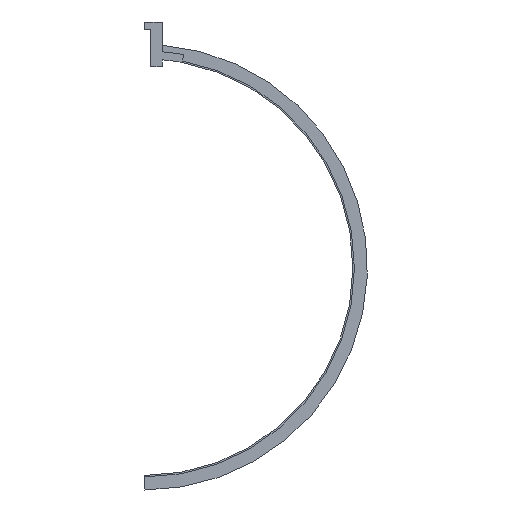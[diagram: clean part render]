
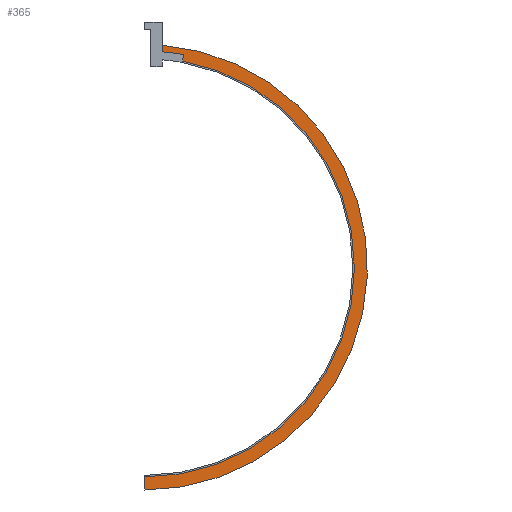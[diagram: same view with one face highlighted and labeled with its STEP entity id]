
A CAD part, top view. The second image highlights one B-rep face of the part: STEP entity #365.
In plain terms, the highlighted planar face has unit normal (0, 0, 1).
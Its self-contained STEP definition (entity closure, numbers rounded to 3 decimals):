
#365 = ADVANCED_FACE('',(#366),#381,.T.);
#366 = FACE_BOUND('',#367,.T.);
#367 = EDGE_LOOP('',(#368,#392,#408,#425,#441,#458));
#368 = ORIENTED_EDGE('',*,*,#369,.F.);
#369 = EDGE_CURVE('',#370,#372,#374,.T.);
#370 = VERTEX_POINT('',#371);
#371 = CARTESIAN_POINT('',(0.,-418.,0.));
#372 = VERTEX_POINT('',#373);
#373 = CARTESIAN_POINT('',(75.457,411.133,0.));
#374 = SURFACE_CURVE('',#375,(#380),.PCURVE_S1.);
#375 = CIRCLE('',#376,418.);
#376 = AXIS2_PLACEMENT_3D('',#377,#378,#379);
#377 = CARTESIAN_POINT('',(0.,0.,0.));
#378 = DIRECTION('',(0.,0.,1.));
#379 = DIRECTION('',(0.,-1.,0.));
#380 = PCURVE('',#381,#386);
#381 = PLANE('',#382);
#382 = AXIS2_PLACEMENT_3D('',#383,#384,#385);
#383 = CARTESIAN_POINT('',(0.,0.,0.));
#384 = DIRECTION('',(0.,0.,1.));
#385 = DIRECTION('',(1.,0.,-0.));
#386 = DEFINITIONAL_REPRESENTATION('',(#387),#391);
#387 = CIRCLE('',#388,418.);
#388 = AXIS2_PLACEMENT_2D('',#389,#390);
#389 = CARTESIAN_POINT('',(0.,0.));
#390 = DIRECTION('',(0.,-1.));
#391 = ( GEOMETRIC_REPRESENTATION_CONTEXT(2) 
PARAMETRIC_REPRESENTATION_CONTEXT() REPRESENTATION_CONTEXT('2D SPACE',''
  ) );
#392 = ORIENTED_EDGE('',*,*,#393,.T.);
#393 = EDGE_CURVE('',#370,#394,#396,.T.);
#394 = VERTEX_POINT('',#395);
#395 = CARTESIAN_POINT('',(0.,-444.,0.));
#396 = SURFACE_CURVE('',#397,(#401),.PCURVE_S1.);
#397 = LINE('',#398,#399);
#398 = CARTESIAN_POINT('',(0.,600.,0.));
#399 = VECTOR('',#400,1.);
#400 = DIRECTION('',(0.,-1.,0.));
#401 = PCURVE('',#381,#402);
#402 = DEFINITIONAL_REPRESENTATION('',(#403),#407);
#403 = LINE('',#404,#405);
#404 = CARTESIAN_POINT('',(0.,600.));
#405 = VECTOR('',#406,1.);
#406 = DIRECTION('',(0.,-1.));
#407 = ( GEOMETRIC_REPRESENTATION_CONTEXT(2) 
PARAMETRIC_REPRESENTATION_CONTEXT() REPRESENTATION_CONTEXT('2D SPACE',''
  ) );
#408 = ORIENTED_EDGE('',*,*,#409,.T.);
#409 = EDGE_CURVE('',#394,#410,#412,.T.);
#410 = VERTEX_POINT('',#411);
#411 = CARTESIAN_POINT('',(35.,442.618,0.));
#412 = SURFACE_CURVE('',#413,(#418),.PCURVE_S1.);
#413 = CIRCLE('',#414,444.);
#414 = AXIS2_PLACEMENT_3D('',#415,#416,#417);
#415 = CARTESIAN_POINT('',(0.,0.,0.));
#416 = DIRECTION('',(0.,0.,1.));
#417 = DIRECTION('',(0.,-1.,0.));
#418 = PCURVE('',#381,#419);
#419 = DEFINITIONAL_REPRESENTATION('',(#420),#424);
#420 = CIRCLE('',#421,444.);
#421 = AXIS2_PLACEMENT_2D('',#422,#423);
#422 = CARTESIAN_POINT('',(0.,0.));
#423 = DIRECTION('',(0.,-1.));
#424 = ( GEOMETRIC_REPRESENTATION_CONTEXT(2) 
PARAMETRIC_REPRESENTATION_CONTEXT() REPRESENTATION_CONTEXT('2D SPACE',''
  ) );
#425 = ORIENTED_EDGE('',*,*,#426,.F.);
#426 = EDGE_CURVE('',#427,#410,#429,.T.);
#427 = VERTEX_POINT('',#428);
#428 = CARTESIAN_POINT('',(35.,429.577,0.));
#429 = SURFACE_CURVE('',#430,(#434),.PCURVE_S1.);
#430 = LINE('',#431,#432);
#431 = CARTESIAN_POINT('',(35.,400.,0.));
#432 = VECTOR('',#433,1.);
#433 = DIRECTION('',(0.,1.,0.));
#434 = PCURVE('',#381,#435);
#435 = DEFINITIONAL_REPRESENTATION('',(#436),#440);
#436 = LINE('',#437,#438);
#437 = CARTESIAN_POINT('',(35.,400.));
#438 = VECTOR('',#439,1.);
#439 = DIRECTION('',(0.,1.));
#440 = ( GEOMETRIC_REPRESENTATION_CONTEXT(2) 
PARAMETRIC_REPRESENTATION_CONTEXT() REPRESENTATION_CONTEXT('2D SPACE',''
  ) );
#441 = ORIENTED_EDGE('',*,*,#442,.F.);
#442 = EDGE_CURVE('',#443,#427,#445,.T.);
#443 = VERTEX_POINT('',#444);
#444 = CARTESIAN_POINT('',(77.804,423.919,0.));
#445 = SURFACE_CURVE('',#446,(#451),.PCURVE_S1.);
#446 = CIRCLE('',#447,431.);
#447 = AXIS2_PLACEMENT_3D('',#448,#449,#450);
#448 = CARTESIAN_POINT('',(0.,0.,0.));
#449 = DIRECTION('',(0.,0.,1.));
#450 = DIRECTION('',(1.,0.,-0.));
#451 = PCURVE('',#381,#452);
#452 = DEFINITIONAL_REPRESENTATION('',(#453),#457);
#453 = CIRCLE('',#454,431.);
#454 = AXIS2_PLACEMENT_2D('',#455,#456);
#455 = CARTESIAN_POINT('',(0.,0.));
#456 = DIRECTION('',(1.,0.));
#457 = ( GEOMETRIC_REPRESENTATION_CONTEXT(2) 
PARAMETRIC_REPRESENTATION_CONTEXT() REPRESENTATION_CONTEXT('2D SPACE',''
  ) );
#458 = ORIENTED_EDGE('',*,*,#459,.F.);
#459 = EDGE_CURVE('',#372,#443,#460,.T.);
#460 = SURFACE_CURVE('',#461,(#465),.PCURVE_S1.);
#461 = LINE('',#462,#463);
#462 = CARTESIAN_POINT('',(0.,0.,0.));
#463 = VECTOR('',#464,1.);
#464 = DIRECTION('',(0.181,0.984,0.));
#465 = PCURVE('',#381,#466);
#466 = DEFINITIONAL_REPRESENTATION('',(#467),#471);
#467 = LINE('',#468,#469);
#468 = CARTESIAN_POINT('',(0.,0.));
#469 = VECTOR('',#470,1.);
#470 = DIRECTION('',(0.181,0.984));
#471 = ( GEOMETRIC_REPRESENTATION_CONTEXT(2) 
PARAMETRIC_REPRESENTATION_CONTEXT() REPRESENTATION_CONTEXT('2D SPACE',''
  ) );
